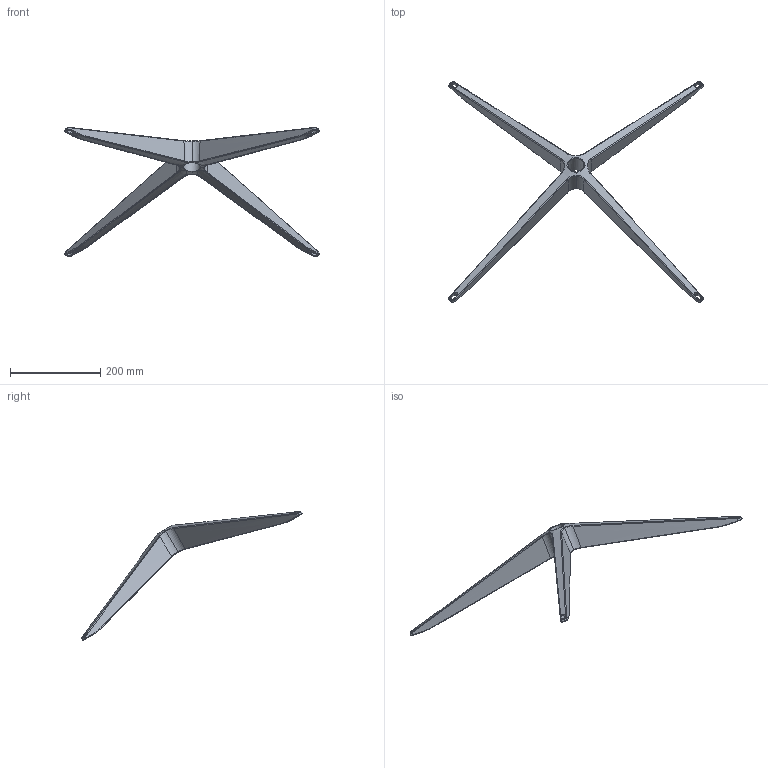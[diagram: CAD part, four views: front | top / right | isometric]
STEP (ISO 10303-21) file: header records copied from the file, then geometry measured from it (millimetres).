
FILE_DESCRIPTION(/* description */ (''),/* implementation_level */ '2;1');
FILE_NAME(/* name */ '429126_01_HP_X_Frame.stp',/* time_stamp */ '2022-08-12T13:25:38-07:00',/* author */ (''),/* organization */ (''),/* preprocessor_version */ 'ST-DEVELOPER v18.102',/* originating_system */ 'SIEMENS PLM Software NX 2023',/* authorisation */ '');
FILE_SCHEMA (('AUTOMOTIVE_DESIGN { 1 0 10303 214 3 1 1 1 }'));
Length unit declared in the file: millimetre
Products named in the file (1): 01_objects
Bounding box: 563.92 x 488.97 x 285.83 mm (x, y, z)
Volume: 1083611 mm3; surface area: 169158.7 mm2
Topology: 1 solids, 1 shells, 182 faces, 500 edges, 308 vertices
Faces by surface type: bspline 138, plane 22, cone 18, cylinder 4
Entity records: 22114 total; most frequent: CARTESIAN_POINT 18757, ORIENTED_EDGE 980, EDGE_CURVE 490, B_SPLINE_CURVE_WITH_KNOTS 370, VERTEX_POINT 308, DIRECTION 268, EDGE_LOOP 190, ADVANCED_FACE 182
